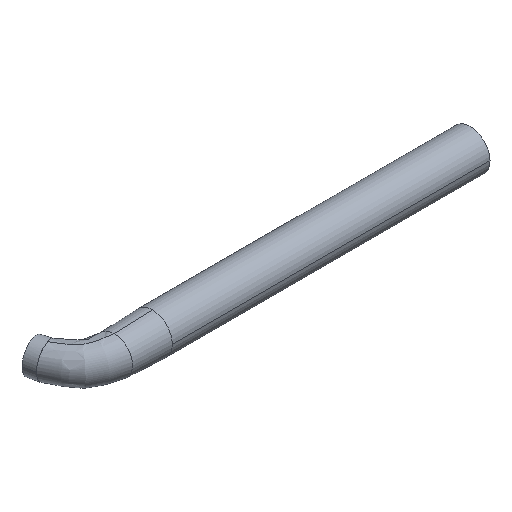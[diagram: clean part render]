
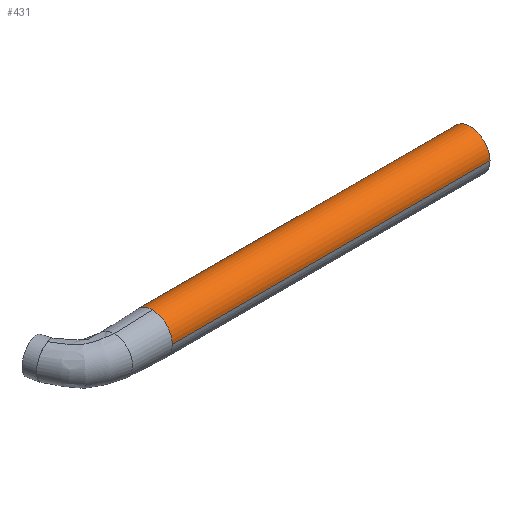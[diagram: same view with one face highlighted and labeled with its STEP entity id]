
A CAD part, isometric view. The second image highlights one B-rep face of the part: STEP entity #431.
In plain terms, the highlighted cylindrical face has radius 12.5 mm (diameter 25 mm), a partial arc.
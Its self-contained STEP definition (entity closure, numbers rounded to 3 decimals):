
#431=ADVANCED_FACE('',(#565),#564,.T.);
#564=CYLINDRICAL_SURFACE('',#851,12.5);
#565=FACE_OUTER_BOUND('',#852,.T.);
#848=CARTESIAN_POINT('',(292.321,204.988,0.));
#849=DIRECTION('',(-1.,0.,0.));
#850=DIRECTION('',(0.,-1.,0.));
#851=AXIS2_PLACEMENT_3D('',#848,#849,#850);
#852=EDGE_LOOP('',(#1703,#1704,#1705,#1706,#1707));
#1703=ORIENTED_EDGE('',*,*,#1826,.F.);
#1704=ORIENTED_EDGE('',*,*,#1827,.F.);
#1705=ORIENTED_EDGE('',*,*,#1828,.F.);
#1706=ORIENTED_EDGE('',*,*,#1796,.T.);
#1707=ORIENTED_EDGE('',*,*,#1829,.T.);
#1796=EDGE_CURVE('',#1918,#1917,#1925,.T.);
#1826=EDGE_CURVE('',#2128,#2129,#2130,.T.);
#1827=EDGE_CURVE('',#2136,#2128,#2137,.T.);
#1828=EDGE_CURVE('',#1918,#2136,#2143,.T.);
#1829=EDGE_CURVE('',#1917,#2129,#2149,.T.);
#1917=VERTEX_POINT('',#2395);
#1918=VERTEX_POINT('',#2396);
#1925=CIRCLE('',#2404,12.5);
#2128=VERTEX_POINT('',#2592);
#2129=VERTEX_POINT('',#2593);
#2130=CIRCLE('',#2597,12.5);
#2136=VERTEX_POINT('',#2598);
#2137=CIRCLE('',#2602,12.5);
#2143=(BOUNDED_CURVE() B_SPLINE_CURVE(1,(#2603,#2604),.UNSPECIFIED.,.F.,.F.) B_SPLINE_CURVE_WITH_KNOTS((2,2),(0.045,0.955),.UNSPECIFIED.) CURVE() GEOMETRIC_REPRESENTATION_ITEM() RATIONAL_B_SPLINE_CURVE((1.,1.)) REPRESENTATION_ITEM('') );
#2149=(BOUNDED_CURVE() B_SPLINE_CURVE(1,(#2605,#2606),.UNSPECIFIED.,.F.,.F.) B_SPLINE_CURVE_WITH_KNOTS((2,2),(0.045,0.955),.UNSPECIFIED.) CURVE() GEOMETRIC_REPRESENTATION_ITEM() RATIONAL_B_SPLINE_CURVE((0.75,0.75)) REPRESENTATION_ITEM('') );
#2395=CARTESIAN_POINT('',(492.321,217.488,0.));
#2396=CARTESIAN_POINT('',(492.321,192.488,0.));
#2401=CARTESIAN_POINT('',(492.321,204.988,0.));
#2402=DIRECTION('',(-1.,0.,0.));
#2403=DIRECTION('',(0.,-1.,0.));
#2404=AXIS2_PLACEMENT_3D('',#2401,#2402,#2403);
#2592=CARTESIAN_POINT('',(292.321,204.988,12.5));
#2593=CARTESIAN_POINT('',(292.321,217.488,0.));
#2594=CARTESIAN_POINT('',(292.321,204.988,0.));
#2595=DIRECTION('',(-1.,0.,0.));
#2596=DIRECTION('',(0.,0.,1.));
#2597=AXIS2_PLACEMENT_3D('',#2594,#2595,#2596);
#2598=CARTESIAN_POINT('',(292.321,192.488,0.));
#2599=CARTESIAN_POINT('',(292.321,204.988,0.));
#2600=DIRECTION('',(-1.,0.,0.));
#2601=DIRECTION('',(0.,0.,1.));
#2602=AXIS2_PLACEMENT_3D('',#2599,#2600,#2601);
#2603=CARTESIAN_POINT('',(492.321,192.488,0.));
#2604=CARTESIAN_POINT('',(292.321,192.488,0.));
#2605=CARTESIAN_POINT('',(492.321,217.488,0.));
#2606=CARTESIAN_POINT('',(292.321,217.488,0.));
